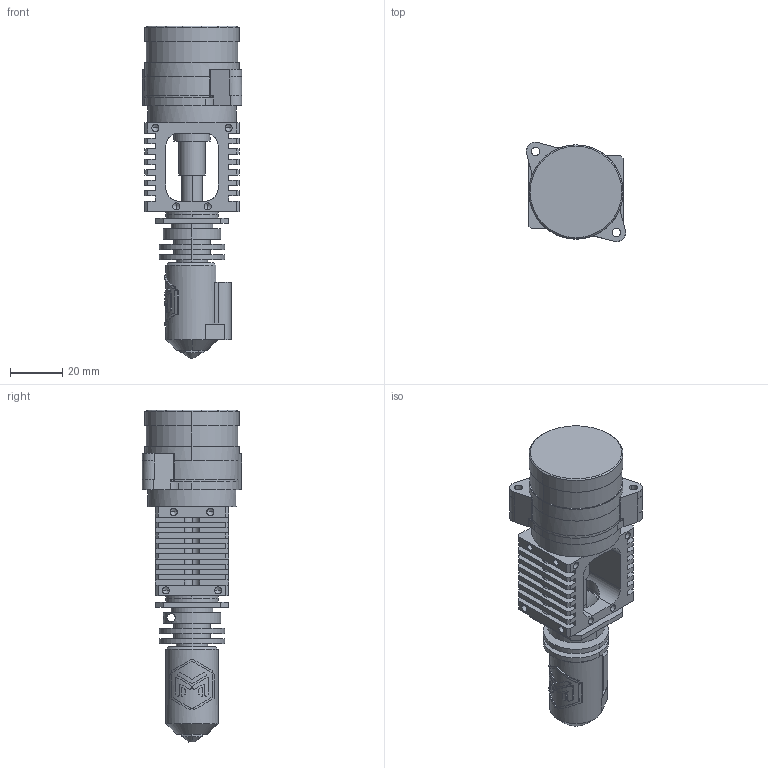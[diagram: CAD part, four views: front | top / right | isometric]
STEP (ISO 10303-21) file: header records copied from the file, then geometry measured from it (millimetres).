
FILE_DESCRIPTION(/* description */ (''),/* implementation_level */ '2;1');
FILE_NAME(/* name */ 'V5 PILOT CAD',/* time_stamp */ '2025-08-21T19:01:34+02:00',/* author */ (''),/* organization */ (''),/* preprocessor_version */ 'ST-DEVELOPER v19.2',/* originating_system */ 'Rhino 8.22',/* authorisation */ '');
FILE_SCHEMA (('CONFIG_CONTROL_DESIGN'));
Length unit declared in the file: millimetre
Products named in the file (1): v5 pilot
Bounding box: 37.96 x 37.96 x 127 mm (x, y, z)
Volume: 68802.9 mm3; surface area: 28751.7 mm2
Topology: 2 solids, 2 shells, 543 faces, 1509 edges, 947 vertices
Faces by surface type: plane 250, cylinder 214, bspline 79
Full cylindrical faces by diameter (mm): 34 x1
Entity records: 18506 total; most frequent: CARTESIAN_POINT 7083, ORIENTED_EDGE 2938, EDGE_CURVE 1469, DIRECTION 1283, VERTEX_POINT 947, AXIS2_PLACEMENT_3D 871, B_SPLINE_CURVE_WITH_KNOTS 784, EDGE_LOOP 611
